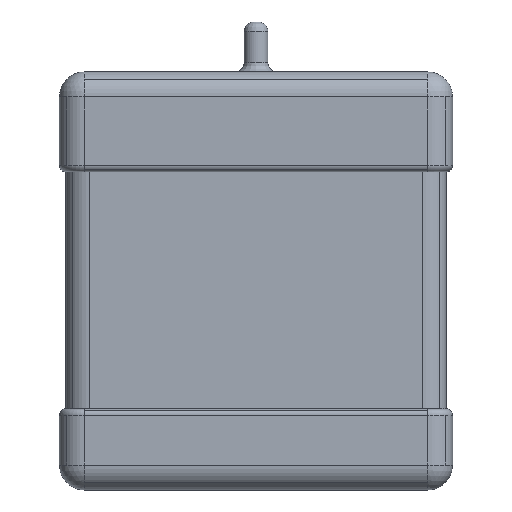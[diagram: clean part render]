
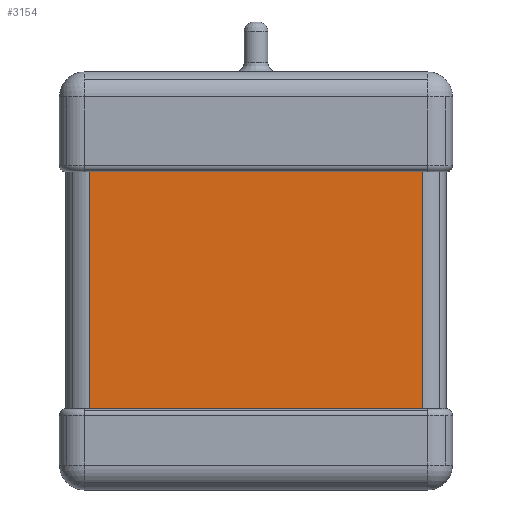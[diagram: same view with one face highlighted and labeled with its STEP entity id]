
A CAD part, front view. The second image highlights one B-rep face of the part: STEP entity #3154.
In plain terms, the highlighted planar face has unit normal (0, -1, 0).
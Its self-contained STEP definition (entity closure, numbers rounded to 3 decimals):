
#151=CARTESIAN_POINT('',(0.287,-0.047,-4.22));
#152=VERTEX_POINT('',#151);
#160=CARTESIAN_POINT('',(0.287,-0.047,-0.42));
#161=VERTEX_POINT('',#160);
#162=CARTESIAN_POINT('',(0.287,-0.047,-4.22));
#163=DIRECTION('',(0.0,0.,1.0));
#164=VECTOR('',#163,3.8);
#165=LINE('',#162,#164);
#166=EDGE_CURVE('',#152,#161,#165,.T.);
#1068=CARTESIAN_POINT('',(5.625,-0.047,-4.22));
#1069=VERTEX_POINT('',#1068);
#1076=CARTESIAN_POINT('',(5.625,-0.047,-4.22));
#1077=DIRECTION('',(-1.0,0.0,0.0));
#1078=VECTOR('',#1077,5.338);
#1079=LINE('',#1076,#1078);
#1080=EDGE_CURVE('',#1069,#152,#1079,.T.);
#1909=CARTESIAN_POINT('',(5.625,-0.047,-0.42));
#1910=VERTEX_POINT('',#1909);
#1911=CARTESIAN_POINT('',(5.625,-0.047,-0.42));
#1912=DIRECTION('',(-1.0,0.0,0.0));
#1913=VECTOR('',#1912,5.338);
#1914=LINE('',#1911,#1913);
#1915=EDGE_CURVE('',#1910,#161,#1914,.T.);
#3040=CARTESIAN_POINT('',(5.625,-0.047,-0.42));
#3041=DIRECTION('',(0.0,0.,-1.0));
#3042=VECTOR('',#3041,3.8);
#3043=LINE('',#3040,#3042);
#3044=EDGE_CURVE('',#1910,#1069,#3043,.T.);
#3143=CARTESIAN_POINT('',(6.006,-0.047,-4.22));
#3144=DIRECTION('',(0.0,-1.0,0.0));
#3145=DIRECTION('',(0.0,0.0,-1.0));
#3146=AXIS2_PLACEMENT_3D('',#3143,#3144,#3145);
#3147=PLANE('',#3146);
#3148=ORIENTED_EDGE('',*,*,#3044,.F.);
#3149=ORIENTED_EDGE('',*,*,#1915,.T.);
#3150=ORIENTED_EDGE('',*,*,#166,.F.);
#3151=ORIENTED_EDGE('',*,*,#1080,.F.);
#3152=EDGE_LOOP('',(#3148,#3149,#3150,#3151));
#3153=FACE_OUTER_BOUND('',#3152,.T.);
#3154=ADVANCED_FACE('',(#3153),#3147,.T.);
